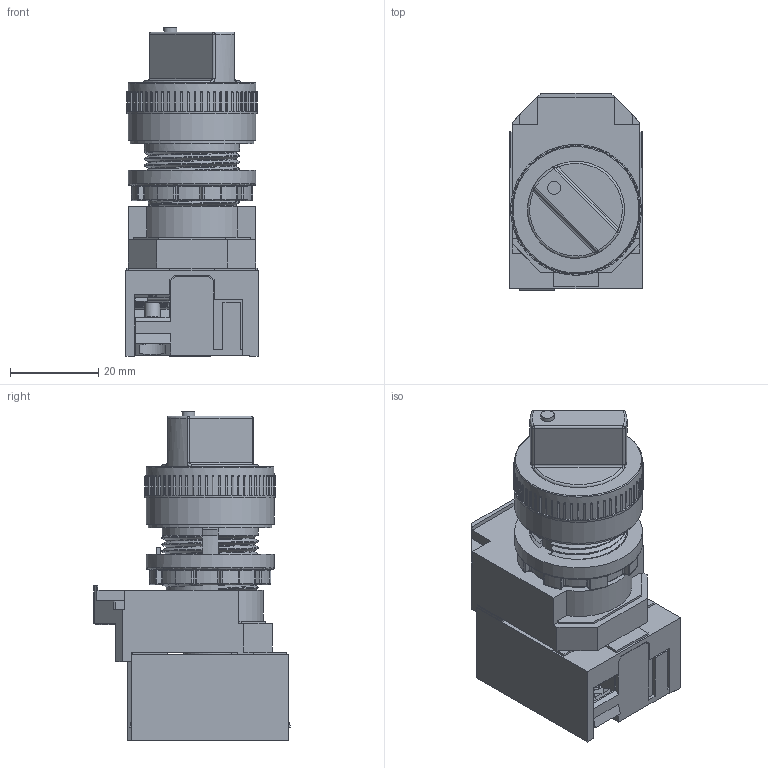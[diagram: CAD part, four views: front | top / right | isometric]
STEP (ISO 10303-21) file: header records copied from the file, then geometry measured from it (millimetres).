
FILE_DESCRIPTION(('Seletor Luminoso R22 2P'),'2;1');
FILE_NAME('E:\WorkFolder\Bibl\3DWeb\kp_c2_c2xh2$$d$$$$_step.stp','2020-04-29T08:17:10',('DIE'),('KAP Componentes Eletricos Ltda.'),'Autodesk Inventor 2011','Autodesk Inventor 2011','Direitos reservados. Proibido reproducao, cedencia ou revelacao de conteudo a terceiros, salvo com autorizacao.');
FILE_SCHEMA(('AUTOMOTIVE_DESIGN { 1 0 10303 214 1 1 1 1 }'));
Length unit declared in the file: millimetre
Products named in the file (1): Part4
Bounding box: 30 x 44.6 x 74.5 mm (x, y, z)
Volume: 49322 mm3; surface area: 18498.8 mm2
Topology: 2 solids, 7 shells, 1660 faces, 4553 edges, 2838 vertices
Faces by surface type: plane 965, cylinder 346, bspline 131, sphere 100, torus 95, cone 23
Full cylindrical faces by diameter (mm): 2.8 x2, 2.85 x1, 3 x4, 3.1 x2, 3.2 x1, 3.3 x2, 3.5 x3, 3.8 x1, 4.3 x1, 5.2 x1, 5.56 x1, 6 x2, 7.2 x1, 20 x1, 20.2 x1, 22.491 x3, 26 x1, 28 x1, 29 x3, 29.6 x1
Entity records: 58059 total; most frequent: CARTESIAN_POINT 15735, ORIENTED_EDGE 8740, DIRECTION 8085, EDGE_CURVE 4370, VERTEX_POINT 2813, AXIS2_PLACEMENT_3D 2702, VECTOR 2681, LINE 2681
